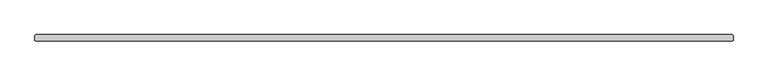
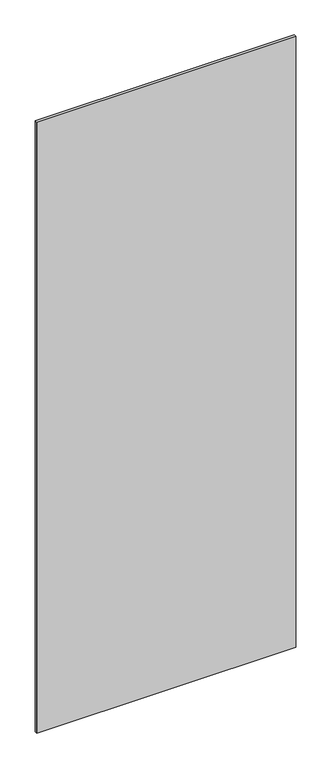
"""IFC4 building model written with IfcOpenShell, lengths in millimetres: plate geometry, Panel Flex Glassline : Panel Flex Glassline."""

from ifc_helpers import new_model, si_unit, origin, origin_with_axes, place, context, project, spatial, polyline, outline, extrude, source, transform, mapped, element, save


def plate_d996e99b(model_context):
    return source(origin(), model_context, "Body", "SweptSolid", [
        extrude(outline(polyline([(548.5, 12.0), (549.5, 11.0), (549.5, 3.0), (548.5, 2.0), (-548.5, 2.0), (-549.5, 3.0), (-549.5, 11.0), (-548.5, 12.0), (548.5, 12.0)])), origin_with_axes(), (0.0, 0.0, 1.0), 2735.0),
    ])


if __name__ == "__main__":
    model = new_model("IFC4")
    model_context = context("Model", 3, world=origin())
    ifc_project = project(units=[si_unit("LENGTHUNIT", "METRE", prefix="MILLI")], contexts=[model_context])
    site = spatial("IfcSite", under=ifc_project)
    building = spatial("IfcBuilding", under=site)
    placement = place(None, origin())
    plate_shape = plate_d996e99b(model_context)
    element("IfcPlate", 1, ObjectType="Panel Flex Glassline : Panel Flex Glassline", at=placement, inside=building, context=model_context, shape_type="MappedRepresentation", body=[
        mapped(plate_shape, transform((0.0, 0.0, 0.0), x_axis=(1.0, 0.0, 0.0), y_axis=(0.0, 1.0, 0.0), z_axis=(0.0, 0.0, 1.0))),
    ])
    save(model, "model.ifc")
